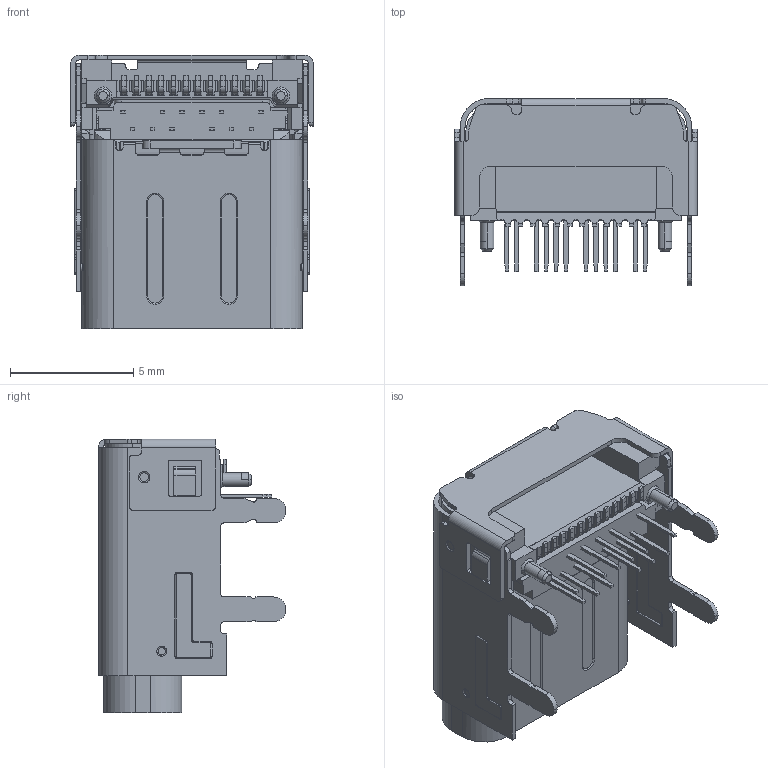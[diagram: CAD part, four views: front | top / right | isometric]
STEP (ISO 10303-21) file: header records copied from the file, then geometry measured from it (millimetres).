
FILE_DESCRIPTION (( 'STEP AP203' ), '1' );
FILE_NAME ('U5141-24PN4.0Z3.4H11.1L.stp', '2026-08-26T09:46:38', ( '' ), ( '' ), 'SwSTEP 2.0', 'SolidWorks 2020', '' );
FILE_SCHEMA (( 'CONFIG_CONTROL_DESIGN' ));
Length unit declared in the file: millimetre
Products named in the file (43): DIP-TERMINAL-2_7_58_1_1_2_AF__6^DIP-TERMINAL-2_7_58_1_1_2_AF_14_ASM_DIP-IM_ASM_ASM_37_ASM_26_1_AS_1_ASM_MAIN-IM_ASM_ASM_65_ASM_21_1_A_1_ASM_TPC-CH340_ASM_4_ASM_3_1_ASM_1_1_ASM_ASM0001_ASM_1_AS~; DIP-IM-HSG1_25_24_1_1_1_1_1^DIP-IM_ASM_ASM_37_ASM_26_1_AS_1_ASM_MAIN-IM_ASM_ASM_65_ASM_21_1_A_1_ASM_TPC-CH340_ASM_4_ASM_3_1_ASM_1_1_ASM_ASM0001_ASM_1_ASM_1_AF0_ASM_1_1_ASM_TPC24PIN-CH340-SMT_D~; TPC24PIN-CH340-SMT_DIP-202302_3_ASM^TPC24PIN-CH340-SMT_DIP-202302_4_ASM_U5141-24PN5.0Z3.4H11.1L(2)_U5141-24PN5.0Z3.4H11.1L(2); UPPER-IM-HSG_39_1_36_1_1_2_AF_1^UPPER-IM-HSG_39_ASM_2_1_ASM_1_1_ASM_UPPER-IM_ASM_ASM_26_ASM_26_1__1_ASM_MAIN-IM_ASM_ASM_65_ASM_21_1_A_1_ASM_TPC-CH340_ASM_4_ASM_3_1_ASM_1_1_ASM_ASM0001_ASM_1_AS~; UPPER-IM_ASM_ASM_26_ASM_26_1__1_ASM^MAIN-IM_ASM_ASM_65_ASM_21_1_A_1_ASM_TPC-CH340_ASM_4_ASM_3_1_ASM_1_1_ASM_ASM0001_ASM_1_ASM_1_AF0_ASM_1_1_ASM_TPC24PIN-CH340-SMT_DIP-202302_3_ASM_TPC24PIN-CH3~; UPPER-TERMINAL_12_63_1_1_1_A__5^UPPER-TERMINAL_12_63_1_1_1_A_13_ASM_UPPER-IM_ASM_ASM_26_ASM_26_1__1_ASM_MAIN-IM_ASM_ASM_65_ASM_21_1_A_1_ASM_TPC-CH340_ASM_4_ASM_3_1_ASM_1_1_ASM_ASM0001_ASM_1_AS~; DIP-IM_ASM_ASM_37_ASM_26_1_AS_1_ASM^MAIN-IM_ASM_ASM_65_ASM_21_1_A_1_ASM_TPC-CH340_ASM_4_ASM_3_1_ASM_1_1_ASM_ASM0001_ASM_1_ASM_1_AF0_ASM_1_1_ASM_TPC24PIN-CH340-SMT_DIP-202302_3_ASM_TPC24PIN-CH3~; UPPER-TERMINAL_12_63_1_1_1_A__4^UPPER-TERMINAL_12_63_1_1_1_A_13_ASM_UPPER-IM_ASM_ASM_26_ASM_26_1__1_ASM_MAIN-IM_ASM_ASM_65_ASM_21_1_A_1_ASM_TPC-CH340_ASM_4_ASM_3_1_ASM_1_1_ASM_ASM0001_ASM_1_AS~; UPPER-TERMINAL_12_63_1_1_1_A_14^UPPER-TERMINAL_12_63_1_1_1_A_13_ASM_UPPER-IM_ASM_ASM_26_ASM_26_1__1_ASM_MAIN-IM_ASM_ASM_65_ASM_21_1_A_1_ASM_TPC-CH340_ASM_4_ASM_3_1_ASM_1_1_ASM_ASM0001_ASM_1_AS~; UPPER-TERMINAL_12_63_1_1_1_A__6^UPPER-TERMINAL_12_63_1_1_1_A_13_ASM_UPPER-IM_ASM_ASM_26_ASM_26_1__1_ASM_MAIN-IM_ASM_ASM_65_ASM_21_1_A_1_ASM_TPC-CH340_ASM_4_ASM_3_1_ASM_1_1_ASM_ASM0001_ASM_1_AS~; DIP-TERMINAL-2_7_58_1_1_2_AF_14_ASM^DIP-IM_ASM_ASM_37_ASM_26_1_AS_1_ASM_MAIN-IM_ASM_ASM_65_ASM_21_1_A_1_ASM_TPC-CH340_ASM_4_ASM_3_1_ASM_1_1_ASM_ASM0001_ASM_1_ASM_1_AF0_ASM_1_1_ASM_TPC24PIN-CH3~; DIP-TERMINAL-2_7_58_1_1_2_AF__4^DIP-TERMINAL-2_7_58_1_1_2_AF_14_ASM_DIP-IM_ASM_ASM_37_ASM_26_1_AS_1_ASM_MAIN-IM_ASM_ASM_65_ASM_21_1_A_1_ASM_TPC-CH340_ASM_4_ASM_3_1_ASM_1_1_ASM_ASM0001_ASM_1_AS~; UPPER-TERMINAL_12_63_1_1_1_A__3^UPPER-TERMINAL_12_63_1_1_1_A_13_ASM_UPPER-IM_ASM_ASM_26_ASM_26_1__1_ASM_MAIN-IM_ASM_ASM_65_ASM_21_1_A_1_ASM_TPC-CH340_ASM_4_ASM_3_1_ASM_1_1_ASM_ASM0001_ASM_1_AS~; DIP-TERMINAL-2_7_58_1_1_2_AF__3^DIP-TERMINAL-2_7_58_1_1_2_AF_14_ASM_DIP-IM_ASM_ASM_37_ASM_26_1_AS_1_ASM_MAIN-IM_ASM_ASM_65_ASM_21_1_A_1_ASM_TPC-CH340_ASM_4_ASM_3_1_ASM_1_1_ASM_ASM0001_ASM_1_AS~; DIP-IM-HSG2_8_1_1_1_1_1_1^DIP-IM_ASM_ASM_37_ASM_26_1_AS_1_ASM_MAIN-IM_ASM_ASM_65_ASM_21_1_A_1_ASM_TPC-CH340_ASM_4_ASM_3_1_ASM_1_1_ASM_ASM0001_ASM_1_ASM_1_AF0_ASM_1_1_ASM_TPC24PIN-CH340-SMT_DIP~; UPPER-TERMINAL_12_63_1_1_1_A__9^UPPER-TERMINAL_12_63_1_1_1_A_13_ASM_UPPER-IM_ASM_ASM_26_ASM_26_1__1_ASM_MAIN-IM_ASM_ASM_65_ASM_21_1_A_1_ASM_TPC-CH340_ASM_4_ASM_3_1_ASM_1_1_ASM_ASM0001_ASM_1_AS~; UPPER-TERMINAL_12_63_1_1_1_A_16^UPPER-TERMINAL_12_63_1_1_1_A_13_ASM_UPPER-IM_ASM_ASM_26_ASM_26_1__1_ASM_MAIN-IM_ASM_ASM_65_ASM_21_1_A_1_ASM_TPC-CH340_ASM_4_ASM_3_1_ASM_1_1_ASM_ASM0001_ASM_1_AS~; UPPER-TERMINAL_12_63_1_1_1_A_13_ASM^UPPER-IM_ASM_ASM_26_ASM_26_1__1_ASM_MAIN-IM_ASM_ASM_65_ASM_21_1_A_1_ASM_TPC-CH340_ASM_4_ASM_3_1_ASM_1_1_ASM_ASM0001_ASM_1_ASM_1_AF0_ASM_1_1_ASM_TPC24PIN-CH3~; TPC24PIN-CH340-SMT_DIP-202302_4_ASM^U5141-24PN5.0Z3.4H11.1L(2)_U5141-24PN5.0Z3.4H11.1L(2); MAIN_SHELL_4_1_1_1_1_AF0_1_1^TPC-CH340_ASM_4_ASM_3_1_ASM_1_1_ASM_ASM0001_ASM_1_ASM_1_AF0_ASM_1_1_ASM_TPC24PIN-CH340-SMT_DIP-202302_3_ASM_TPC24PIN-CH340-SMT_DIP-202302_4_ASM_U5141-24PN5.0Z3.4H1~; UPPER-TERMINAL_12_63_1_1_1_A__8^UPPER-TERMINAL_12_63_1_1_1_A_13_ASM_UPPER-IM_ASM_ASM_26_ASM_26_1__1_ASM_MAIN-IM_ASM_ASM_65_ASM_21_1_A_1_ASM_TPC-CH340_ASM_4_ASM_3_1_ASM_1_1_ASM_ASM0001_ASM_1_AS~; UPPER-TERMINAL_12_63_1_1_1_A__1^UPPER-TERMINAL_12_63_1_1_1_A_13_ASM_UPPER-IM_ASM_ASM_26_ASM_26_1__1_ASM_MAIN-IM_ASM_ASM_65_ASM_21_1_A_1_ASM_TPC-CH340_ASM_4_ASM_3_1_ASM_1_1_ASM_ASM0001_ASM_1_AS~; DIP-TERMINAL-2_7_58_1_1_2_AF__5^DIP-TERMINAL-2_7_58_1_1_2_AF_14_ASM_DIP-IM_ASM_ASM_37_ASM_26_1_AS_1_ASM_MAIN-IM_ASM_ASM_65_ASM_21_1_A_1_ASM_TPC-CH340_ASM_4_ASM_3_1_ASM_1_1_ASM_ASM0001_ASM_1_AS~; DIP-TERMINAL-2_7_58_1_1_2_AF_15^DIP-TERMINAL-2_7_58_1_1_2_AF_14_ASM_DIP-IM_ASM_ASM_37_ASM_26_1_AS_1_ASM_MAIN-IM_ASM_ASM_65_ASM_21_1_A_1_ASM_TPC-CH340_ASM_4_ASM_3_1_ASM_1_1_ASM_ASM0001_ASM_1_AS~; DIP-TERMINAL-2_7_58_1_1_2_AF_16^DIP-TERMINAL-2_7_58_1_1_2_AF_14_ASM_DIP-IM_ASM_ASM_37_ASM_26_1_AS_1_ASM_MAIN-IM_ASM_ASM_65_ASM_21_1_A_1_ASM_TPC-CH340_ASM_4_ASM_3_1_ASM_1_1_ASM_ASM0001_ASM_1_AS~; MID-PLATE_19_10_1_1_3_1_1^MAIN-IM_ASM_ASM_65_ASM_21_1_A_1_ASM_TPC-CH340_ASM_4_ASM_3_1_ASM_1_1_ASM_ASM0001_ASM_1_ASM_1_AF0_ASM_1_1_ASM_TPC24PIN-CH340-SMT_DIP-202302_3_ASM_TPC24PIN-CH340-SMT_DIP~; DIP-TERMINAL-2_7_58_1_1_2_AF__8^DIP-TERMINAL-2_7_58_1_1_2_AF_14_ASM_DIP-IM_ASM_ASM_37_ASM_26_1_AS_1_ASM_MAIN-IM_ASM_ASM_65_ASM_21_1_A_1_ASM_TPC-CH340_ASM_4_ASM_3_1_ASM_1_1_ASM_ASM0001_ASM_1_AS~; MAIN-IM-HSG_13_9_1_1_1_1_1^MAIN-IM_ASM_ASM_65_ASM_21_1_A_1_ASM_TPC-CH340_ASM_4_ASM_3_1_ASM_1_1_ASM_ASM0001_ASM_1_ASM_1_AF0_ASM_1_1_ASM_TPC24PIN-CH340-SMT_DIP-202302_3_ASM_TPC24PIN-CH340-SMT_DI~; UPPER-TERMINAL_12_63_1_1_1_A__7^UPPER-TERMINAL_12_63_1_1_1_A_13_ASM_UPPER-IM_ASM_ASM_26_ASM_26_1__1_ASM_MAIN-IM_ASM_ASM_65_ASM_21_1_A_1_ASM_TPC-CH340_ASM_4_ASM_3_1_ASM_1_1_ASM_ASM0001_ASM_1_AS~; ASM0001_ASM_1_ASM_1_AF0_ASM_1_1_ASM^TPC24PIN-CH340-SMT_DIP-202302_3_ASM_TPC24PIN-CH340-SMT_DIP-202302_4_ASM_U5141-24PN5.0Z3.4H11.1L(2)_U5141-24PN5.0Z3.4H11.1L(2); UPPER-TERMINAL_12_63_1_1_1_A_15^UPPER-TERMINAL_12_63_1_1_1_A_13_ASM_UPPER-IM_ASM_ASM_26_ASM_26_1__1_ASM_MAIN-IM_ASM_ASM_65_ASM_21_1_A_1_ASM_TPC-CH340_ASM_4_ASM_3_1_ASM_1_1_ASM_ASM0001_ASM_1_AS~; DIP-TERMINAL-2_7_58_1_1_2_AF_17^DIP-TERMINAL-2_7_58_1_1_2_AF_14_ASM_DIP-IM_ASM_ASM_37_ASM_26_1_AS_1_ASM_MAIN-IM_ASM_ASM_65_ASM_21_1_A_1_ASM_TPC-CH340_ASM_4_ASM_3_1_ASM_1_1_ASM_ASM0001_ASM_1_AS~; U5141-24PN4.0Z3.4H11.1L; UPPER-IM-HSG_39_ASM_2_1_ASM_1_1_ASM^UPPER-IM_ASM_ASM_26_ASM_26_1__1_ASM_MAIN-IM_ASM_ASM_65_ASM_21_1_A_1_ASM_TPC-CH340_ASM_4_ASM_3_1_ASM_1_1_ASM_ASM0001_ASM_1_ASM_1_AF0_ASM_1_1_ASM_TPC24PIN-CH3~; DIP-TERMINAL-2_7_58_1_1_2_AF__2^DIP-TERMINAL-2_7_58_1_1_2_AF_14_ASM_DIP-IM_ASM_ASM_37_ASM_26_1_AS_1_ASM_MAIN-IM_ASM_ASM_65_ASM_21_1_A_1_ASM_TPC-CH340_ASM_4_ASM_3_1_ASM_1_1_ASM_ASM0001_ASM_1_AS~; TPC-CH340_ASM_4_ASM_3_1_ASM_1_1_ASM^ASM0001_ASM_1_ASM_1_AF0_ASM_1_1_ASM_TPC24PIN-CH340-SMT_DIP-202302_3_ASM_TPC24PIN-CH340-SMT_DIP-202302_4_ASM_U5141-24PN5.0Z3.4H11.1L(2)_U5141-24PN5.0Z3.4H11.~; UPPER-TERMINAL_12_63_1_1_1_A__2^UPPER-TERMINAL_12_63_1_1_1_A_13_ASM_UPPER-IM_ASM_ASM_26_ASM_26_1__1_ASM_MAIN-IM_ASM_ASM_65_ASM_21_1_A_1_ASM_TPC-CH340_ASM_4_ASM_3_1_ASM_1_1_ASM_ASM0001_ASM_1_AS~; DIP-TERMINAL-2_7_58_1_1_2_AF__9^DIP-TERMINAL-2_7_58_1_1_2_AF_14_ASM_DIP-IM_ASM_ASM_37_ASM_26_1_AS_1_ASM_MAIN-IM_ASM_ASM_65_ASM_21_1_A_1_ASM_TPC-CH340_ASM_4_ASM_3_1_ASM_1_1_ASM_ASM0001_ASM_1_AS~; U5141-24PN5.0Z3.4H11.1L(2)^U5141-24PN5.0Z3.4H11.1L(2); DIP-TERMINAL-2_7_58_1_1_2_AF__7^DIP-TERMINAL-2_7_58_1_1_2_AF_14_ASM_DIP-IM_ASM_ASM_37_ASM_26_1_AS_1_ASM_MAIN-IM_ASM_ASM_65_ASM_21_1_A_1_ASM_TPC-CH340_ASM_4_ASM_3_1_ASM_1_1_ASM_ASM0001_ASM_1_AS~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
Assembly tree (42 placements, depth 10):
  U5141-24PN4.0Z3.4H11.1L
    U5141-24PN5.0Z3.4H11.1L(2)^U5141-24PN5.0Z3.4H11.1L(2)
      TPC24PIN-CH340-SMT_DIP-202302_4_ASM^U5141-24PN5.0Z3.4H11.1L(2)_U5141-24PN5.0Z3.4H11.1L(2)
        TPC24PIN-CH340-SMT_DIP-202302_3_ASM^TPC24PIN-CH340-SMT_DIP-202302_4_ASM_U5141-24PN5.0Z3.4H11.1L(2)_U5141-24PN5.0Z3.4H11.1L(2)
          ASM0001_ASM_1_ASM_1_AF0_ASM_1_1_ASM^TPC24PIN-CH340-SMT_DIP-202302_3_ASM_TPC24PIN-CH340-SMT_DIP-202302_4_ASM_U5141-24PN5.0Z3.4H11.1L(2)_U5141-24PN5.0Z3.4H11.1L(2)
            TPC-CH340_ASM_4_ASM_3_1_ASM_1_1_ASM^ASM0001_ASM_1_ASM_1_AF0_ASM_1_1_ASM_TPC24PIN-CH340-SMT_DIP-202302_3_ASM_TPC24PIN-CH340-SMT_DIP-202302_4_ASM_U5141-24PN5.0Z3.4H11.1L(2)_U5141-24PN5.0Z3.4H11.~
              MAIN-IM_ASM_ASM_65_ASM_21_1_A_1_ASM^TPC-CH340_ASM_4_ASM_3_1_ASM_1_1_ASM_ASM0001_ASM_1_ASM_1_AF0_ASM_1_1_ASM_TPC24PIN-CH340-SMT_DIP-202302_3_ASM_TPC24PIN-CH340-SMT_DIP-202302_4_ASM_U5141-24PN5.~
                UPPER-IM_ASM_ASM_26_ASM_26_1__1_ASM^MAIN-IM_ASM_ASM_65_ASM_21_1_A_1_ASM_TPC-CH340_ASM_4_ASM_3_1_ASM_1_1_ASM_ASM0001_ASM_1_ASM_1_AF0_ASM_1_1_ASM_TPC24PIN-CH340-SMT_DIP-202302_3_ASM_TPC24PIN-CH3~
                  UPPER-IM-HSG_39_ASM_2_1_ASM_1_1_ASM^UPPER-IM_ASM_ASM_26_ASM_26_1__1_ASM_MAIN-IM_ASM_ASM_65_ASM_21_1_A_1_ASM_TPC-CH340_ASM_4_ASM_3_1_ASM_1_1_ASM_ASM0001_ASM_1_ASM_1_AF0_ASM_1_1_ASM_TPC24PIN-CH3~
                  UPPER-TERMINAL_12_63_1_1_1_A_13_ASM^UPPER-IM_ASM_ASM_26_ASM_26_1__1_ASM_MAIN-IM_ASM_ASM_65_ASM_21_1_A_1_ASM_TPC-CH340_ASM_4_ASM_3_1_ASM_1_1_ASM_ASM0001_ASM_1_ASM_1_AF0_ASM_1_1_ASM_TPC24PIN-CH3~
                DIP-IM_ASM_ASM_37_ASM_26_1_AS_1_ASM^MAIN-IM_ASM_ASM_65_ASM_21_1_A_1_ASM_TPC-CH340_ASM_4_ASM_3_1_ASM_1_1_ASM_ASM0001_ASM_1_ASM_1_AF0_ASM_1_1_ASM_TPC24PIN-CH340-SMT_DIP-202302_3_ASM_TPC24PIN-CH3~
                  DIP-TERMINAL-2_7_58_1_1_2_AF_14_ASM^DIP-IM_ASM_ASM_37_ASM_26_1_AS_1_ASM_MAIN-IM_ASM_ASM_65_ASM_21_1_A_1_ASM_TPC-CH340_ASM_4_ASM_3_1_ASM_1_1_ASM_ASM0001_ASM_1_ASM_1_AF0_ASM_1_1_ASM_TPC24PIN-CH3~
                  DIP-IM-HSG1_25_24_1_1_1_1_1^DIP-IM_ASM_ASM_37_ASM_26_1_AS_1_ASM_MAIN-IM_ASM_ASM_65_ASM_21_1_A_1_ASM_TPC-CH340_ASM_4_ASM_3_1_ASM_1_1_ASM_ASM0001_ASM_1_ASM_1_AF0_ASM_1_1_ASM_TPC24PIN-CH340-SMT_D~
                  DIP-IM-HSG2_8_1_1_1_1_1_1^DIP-IM_ASM_ASM_37_ASM_26_1_AS_1_ASM_MAIN-IM_ASM_ASM_65_ASM_21_1_A_1_ASM_TPC-CH340_ASM_4_ASM_3_1_ASM_1_1_ASM_ASM0001_ASM_1_ASM_1_AF0_ASM_1_1_ASM_TPC24PIN-CH340-SMT_DIP~
                MAIN-IM-HSG_13_9_1_1_1_1_1^MAIN-IM_ASM_ASM_65_ASM_21_1_A_1_ASM_TPC-CH340_ASM_4_ASM_3_1_ASM_1_1_ASM_ASM0001_ASM_1_ASM_1_AF0_ASM_1_1_ASM_TPC24PIN-CH340-SMT_DIP-202302_3_ASM_TPC24PIN-CH340-SMT_DI~
                MID-PLATE_19_10_1_1_3_1_1^MAIN-IM_ASM_ASM_65_ASM_21_1_A_1_ASM_TPC-CH340_ASM_4_ASM_3_1_ASM_1_1_ASM_ASM0001_ASM_1_ASM_1_AF0_ASM_1_1_ASM_TPC24PIN-CH340-SMT_DIP-202302_3_ASM_TPC24PIN-CH340-SMT_DIP~
              MAIN_SHELL_4_1_1_1_1_AF0_1_1^TPC-CH340_ASM_4_ASM_3_1_ASM_1_1_ASM_ASM0001_ASM_1_ASM_1_AF0_ASM_1_1_ASM_TPC24PIN-CH340-SMT_DIP-202302_3_ASM_TPC24PIN-CH340-SMT_DIP-202302_4_ASM_U5141-24PN5.0Z3.4H1~
              OUT_SHELL_2_2_1_1_1_1_AF0_1_1^TPC-CH340_ASM_4_ASM_3_1_ASM_1_1_ASM_ASM0001_ASM_1_ASM_1_AF0_ASM_1_1_ASM_TPC24PIN-CH340-SMT_DIP-202302_3_ASM_TPC24PIN-CH340-SMT_DIP-202302_4_ASM_U5141-24PN5.0Z3.4H~
Bounding box: 9.84 x 7.61 x 11.1 mm (x, y, z)
Volume: 253.5 mm3; surface area: 1786.2 mm2
Topology: 31 solids, 69 shells, 3882 faces, 10844 edges, 7121 vertices
Faces by surface type: plane 2846, cylinder 908, torus 48, cone 40, bspline 40
Entity records: 130631 total; most frequent: CARTESIAN_POINT 24951, ORIENTED_EDGE 21688, DIRECTION 20265, EDGE_CURVE 10844, LINE 8573, VECTOR 8573, VERTEX_POINT 7121, AXIS2_PLACEMENT_3D 5846
